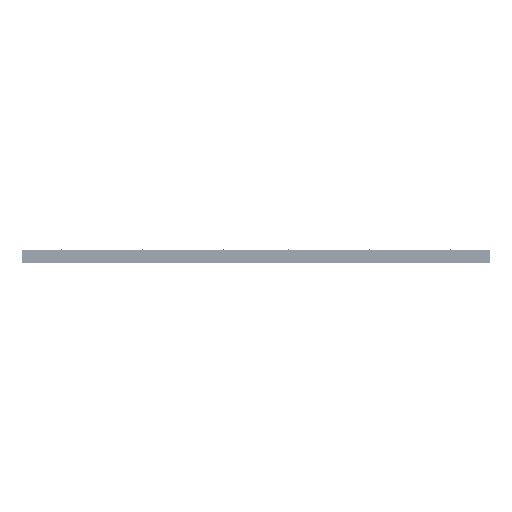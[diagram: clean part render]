
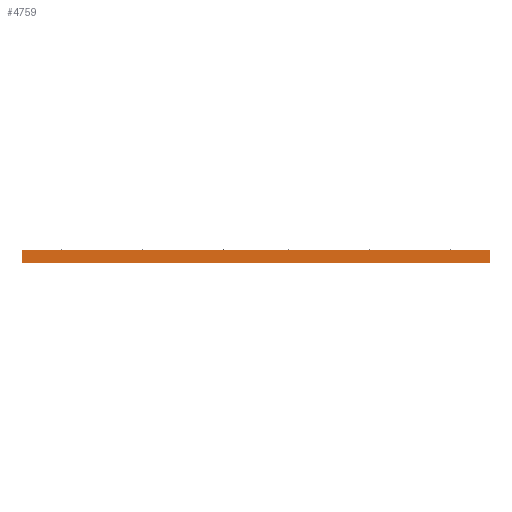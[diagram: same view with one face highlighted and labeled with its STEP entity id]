
A CAD part, front view. The second image highlights one B-rep face of the part: STEP entity #4759.
In plain terms, the highlighted planar face has unit normal (0, -1, 0) as drawn and (0, 0, 1) by its records, which use the part's own axes.
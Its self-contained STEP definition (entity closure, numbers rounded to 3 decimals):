
#516=PLANE('',#5201);
#684=LINE('',#6773,#1256);
#687=LINE('',#6779,#1259);
#688=LINE('',#6781,#1260);
#689=LINE('',#6783,#1261);
#1256=VECTOR('',#5777,1000.);
#1259=VECTOR('',#5782,1000.);
#1260=VECTOR('',#5783,1000.);
#1261=VECTOR('',#5784,1000.);
#2139=ORIENTED_EDGE('',*,*,#3205,.T.);
#2140=ORIENTED_EDGE('',*,*,#3206,.F.);
#2141=ORIENTED_EDGE('',*,*,#3207,.F.);
#2142=ORIENTED_EDGE('',*,*,#3202,.T.);
#3202=EDGE_CURVE('',#3775,#3774,#684,.T.);
#3205=EDGE_CURVE('',#3774,#3777,#687,.T.);
#3206=EDGE_CURVE('',#3778,#3777,#688,.T.);
#3207=EDGE_CURVE('',#3775,#3778,#689,.T.);
#3774=VERTEX_POINT('',#6772);
#3775=VERTEX_POINT('',#6774);
#3777=VERTEX_POINT('',#6780);
#3778=VERTEX_POINT('',#6782);
#4142=EDGE_LOOP('',(#2139,#2140,#2141,#2142));
#4432=FACE_BOUND('',#4142,.T.);
#4759=ADVANCED_FACE('',(#4432),#516,.F.);
#5201=AXIS2_PLACEMENT_3D('',#6778,#5780,#5781);
#5777=DIRECTION('',(-1.,0.,0.));
#5780=DIRECTION('',(0.,0.,-1.));
#5781=DIRECTION('',(-1.,0.,0.));
#5782=DIRECTION('',(0.,-1.,0.));
#5783=DIRECTION('',(-1.,0.,0.));
#5784=DIRECTION('',(0.,-1.,0.));
#6772=CARTESIAN_POINT('',(-550.,0.,500.));
#6773=CARTESIAN_POINT('',(550.,0.,500.));
#6774=CARTESIAN_POINT('',(550.,0.,500.));
#6778=CARTESIAN_POINT('',(550.,0.,500.));
#6779=CARTESIAN_POINT('',(-550.,0.,500.));
#6780=CARTESIAN_POINT('',(-550.,-30.,500.));
#6781=CARTESIAN_POINT('',(550.,-30.,500.));
#6782=CARTESIAN_POINT('',(550.,-30.,500.));
#6783=CARTESIAN_POINT('',(550.,0.,500.));
